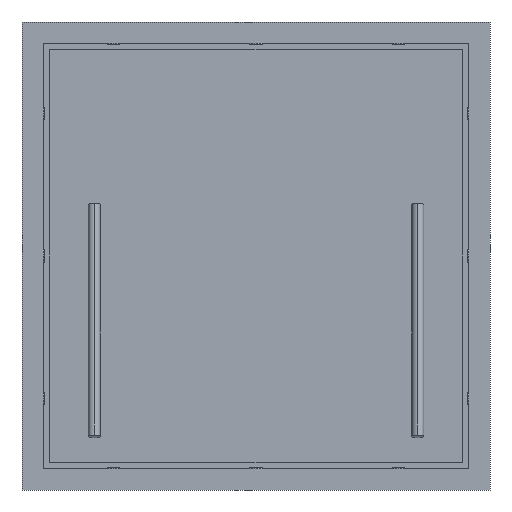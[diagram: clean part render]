
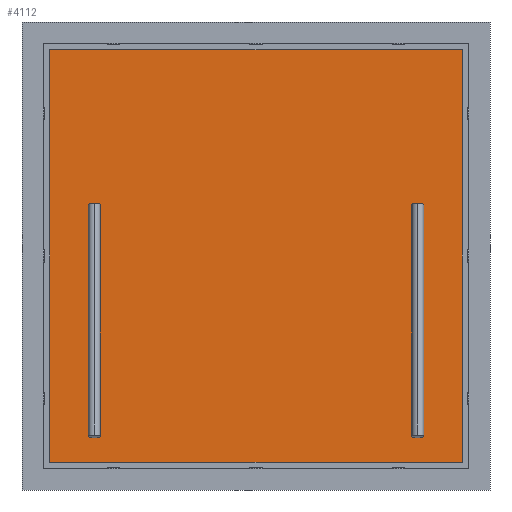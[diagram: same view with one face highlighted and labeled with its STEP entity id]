
A CAD part, front view. The second image highlights one B-rep face of the part: STEP entity #4112.
In plain terms, the highlighted planar face has unit normal (0, -1, 0).
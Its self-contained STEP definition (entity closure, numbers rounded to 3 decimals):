
#3843=DIRECTION('',(0.,0.,-1.));
#3844=VECTOR('',#3843,1048.);
#3845=CARTESIAN_POINT('',(524.,79.,515.));
#3846=LINE('',#3845,#3844);
#3851=DIRECTION('',(-1.,0.,0.));
#3852=VECTOR('',#3851,1048.);
#3853=CARTESIAN_POINT('',(524.,79.,-533.));
#3854=LINE('',#3853,#3852);
#3859=DIRECTION('',(0.,0.,1.));
#3860=VECTOR('',#3859,1048.);
#3861=CARTESIAN_POINT('',(-524.,79.,-533.));
#3862=LINE('',#3861,#3860);
#3867=DIRECTION('',(1.,0.,0.));
#3868=VECTOR('',#3867,1048.);
#3869=CARTESIAN_POINT('',(-524.,79.,515.));
#3870=LINE('',#3869,#3868);
#3942=CARTESIAN_POINT('',(524.,79.,515.));
#3943=CARTESIAN_POINT('',(524.,79.,-533.));
#3944=VERTEX_POINT('',#3942);
#3945=VERTEX_POINT('',#3943);
#3946=CARTESIAN_POINT('',(-524.,79.,-533.));
#3947=VERTEX_POINT('',#3946);
#3948=CARTESIAN_POINT('',(-524.,79.,515.));
#3949=VERTEX_POINT('',#3948);
#4098=CARTESIAN_POINT('',(0.,79.,0.));
#4099=DIRECTION('',(0.,1.,0.));
#4100=DIRECTION('',(0.,0.,-1.));
#4101=AXIS2_PLACEMENT_3D('',#4098,#4099,#4100);
#4102=PLANE('',#4101);
#4103=ORIENTED_EDGE('',*,*,#4088,.T.);
#4105=ORIENTED_EDGE('',*,*,#4104,.T.);
#4107=ORIENTED_EDGE('',*,*,#4106,.T.);
#4109=ORIENTED_EDGE('',*,*,#4108,.T.);
#4110=EDGE_LOOP('',(#4103,#4105,#4107,#4109));
#4111=FACE_OUTER_BOUND('',#4110,.F.);
#4088=EDGE_CURVE('',#3944,#3945,#3846,.T.);
#4104=EDGE_CURVE('',#3945,#3947,#3854,.T.);
#4106=EDGE_CURVE('',#3947,#3949,#3862,.T.);
#4108=EDGE_CURVE('',#3949,#3944,#3870,.T.);
#4112=ADVANCED_FACE('',(#4111),#4102,.F.);
